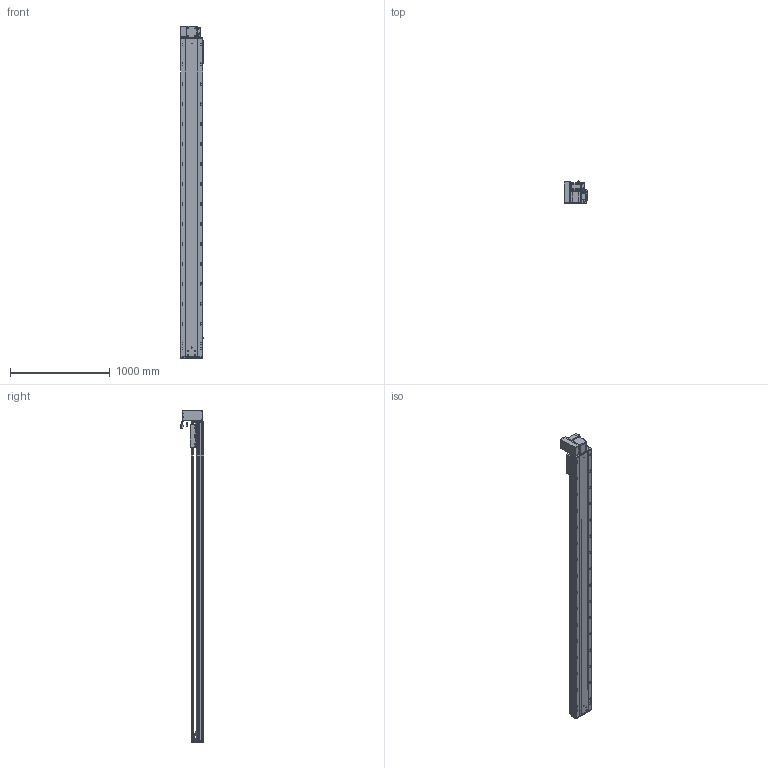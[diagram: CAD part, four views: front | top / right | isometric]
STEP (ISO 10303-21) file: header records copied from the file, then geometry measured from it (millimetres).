
FILE_DESCRIPTION (( 'STEP AP203' ), '1' );
FILE_NAME ('RY220-T-300-UL.SLDASM_2850.step', '2022-07-25T08:36:09', ( '' ), ( '' ), 'SwSTEP 2.0', 'SolidWorks 2016', '' );
FILE_SCHEMA (( 'CONFIG_CONTROL_DESIGN' ));
Length unit declared in the file: millimetre
Products named in the file (14): 怢湛750W_ECMA-CX0807ES; RY220翋肮祭謫釱; RY220-T-300-UL.SLDASM_2850; RY220-俋离672覜茼んえ; RY220-同步轮副支撑座6304×2; RY220-T-300-奻裔啣_2850; RY220-T-蛌殏萇儂假蚾啣(750W); RY220翋肮祭謫裔啣; RY220-T菁釱-300_2850; 110A-T-肮祭謫釱傷裔; RY220-T-湍謫欶(鍼踢); 滅袉蝶18-15; RY220圉猾敕々湍臏賑輸; 覜茼ん672
Assembly tree (18 placements, depth 2):
  RY220-T-300-UL.SLDASM_2850
    RY220-T菁釱-300_2850
    RY220翋肮祭謫釱
    覜茼ん672  x3
    RY220圉猾敕々湍臏賑輸
    RY220-T-300-奻裔啣_2850
    RY220-俋离672覜茼んえ
    滅袉蝶18-15  x3
    RY220翋肮祭謫裔啣  x2
    110A-T-肮祭謫釱傷裔
    怢湛750W_ECMA-CX0807ES
    RY220-T-湍謫欶(鍼踢)
    RY220-T-蛌殏萇儂假蚾啣(750W)
    RY220-同步轮副支撑座6304×2
Bounding box: 239.7 x 231.74 x 3330.5 mm (x, y, z)
Volume: 24228912.1 mm3; surface area: 7483668.2 mm2
Topology: 19 solids, 19 shells, 3012 faces, 8335 edges, 5220 vertices
Faces by surface type: cylinder 1488, plane 1069, cone 373, bspline 56, sphere 16, torus 10
Entity records: 100515 total; most frequent: CARTESIAN_POINT 28367, ORIENTED_EDGE 14906, DIRECTION 14396, EDGE_CURVE 7453, AXIS2_PLACEMENT_3D 5198, VERTEX_POINT 4844, VECTOR 4000, LINE 4000
